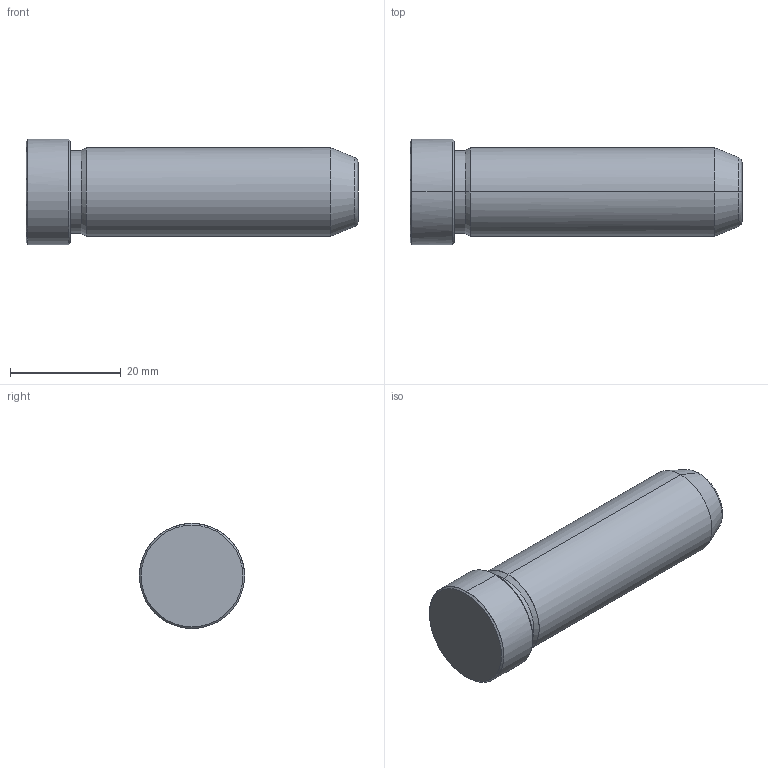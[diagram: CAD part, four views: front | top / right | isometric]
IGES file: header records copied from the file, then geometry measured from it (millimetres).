
Start section: START RECORD GO HERE.
Global section: file name: 549-16X60.igs; native system: DASSAULT SYSTEMES CATIA V5 R20 - www.3ds.com; preprocessor: CATIA Version 5 Release 20 ; author: Utente; organization: NB04-ASUS; date: 20211211.103550; units: millimetre
Bounding box: 60 x 19 x 19 mm (x, y, z)
Surface area: 3550.9 mm2 (no closed solid volume)
Topology: 0 solids, 0 shells, 19 faces, 112 edges, 112 vertices
Faces by surface type: revolution 16, plane 3
